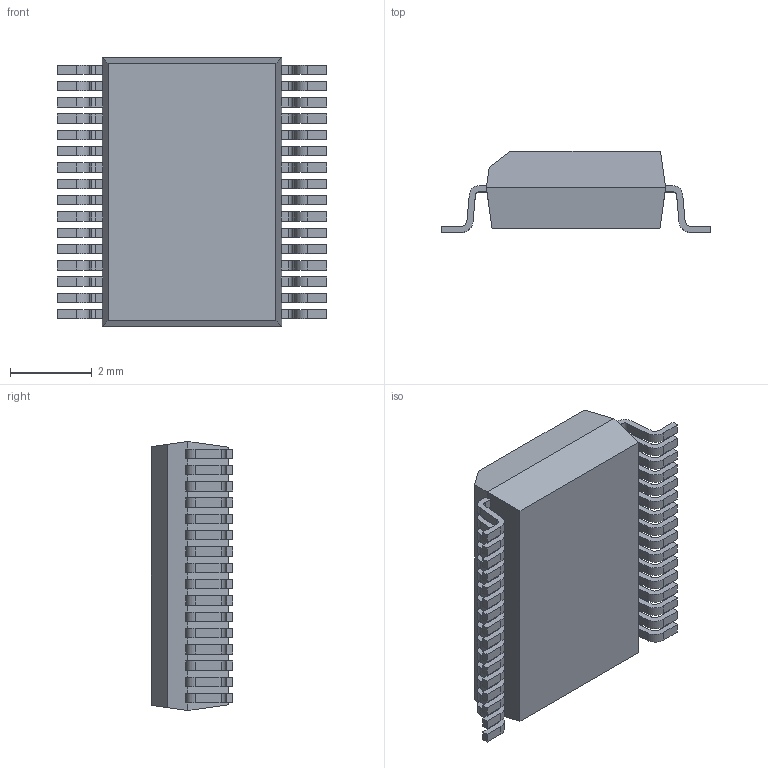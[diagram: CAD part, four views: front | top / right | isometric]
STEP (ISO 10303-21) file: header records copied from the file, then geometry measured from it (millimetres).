
FILE_DESCRIPTION (( 'STEP AP214' ), '1' );
FILE_NAME ('SSOP40P640X200-32_MO-152.CB.STEP', '2014-10-30T11:23:57', ( 'Tester2' ), ( '' ), 'SwSTEP 2.0', 'SolidWorks 2012', '' );
FILE_SCHEMA (( 'AUTOMOTIVE_DESIGN' ));
Length unit declared in the file: millimetre
Products named in the file (1): SSOP40P640X200-32_MO-152.CB
Bounding box: 6.6 x 2 x 6.6 mm (x, y, z)
Volume: 53.9 mm3; surface area: 137.9 mm2
Topology: 1 solids, 1 shells, 430 faces, 1277 edges, 850 vertices
Faces by surface type: plane 300, cylinder 130
Entity records: 18992 total; most frequent: CARTESIAN_POINT 2558, ORIENTED_EDGE 2554, DIRECTION 2399, EDGE_CURVE 1277, LINE 1017, VECTOR 1017, VERTEX_POINT 850, AXIS2_PLACEMENT_3D 691
